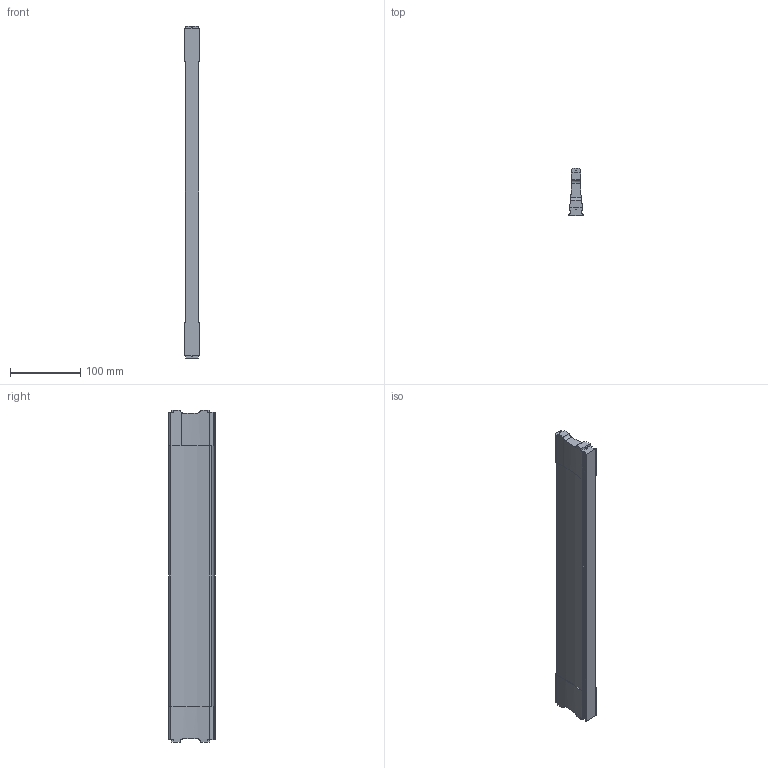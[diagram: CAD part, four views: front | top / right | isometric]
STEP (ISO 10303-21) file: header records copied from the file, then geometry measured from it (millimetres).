
FILE_DESCRIPTION (( 'STEP AP214' ), '1' );
FILE_NAME ('Traverse DWD XP NL500 Mass X468,4_montiert.step', '2010-09-21T13:16:49', ( 'grass' ), ( '' ), 'SwSTEP 2.0', 'SolidWorks 2010', '' );
FILE_SCHEMA (( 'AUTOMOTIVE_DESIGN' ));
Length unit declared in the file: millimetre
Products named in the file (1): Traverse DWD XP NL500 Mass X468,4_montiert
Bounding box: 21.4 x 67.5 x 473 mm (x, y, z)
Volume: 395296.6 mm3; surface area: 82569.3 mm2
Topology: 1 solids, 1 shells, 125 faces, 369 edges, 246 vertices
Faces by surface type: cylinder 68, plane 57
Entity records: 4377 total; most frequent: CARTESIAN_POINT 879, DIRECTION 753, ORIENTED_EDGE 738, EDGE_CURVE 369, AXIS2_PLACEMENT_3D 268, VERTEX_POINT 246, VECTOR 217, LINE 217
